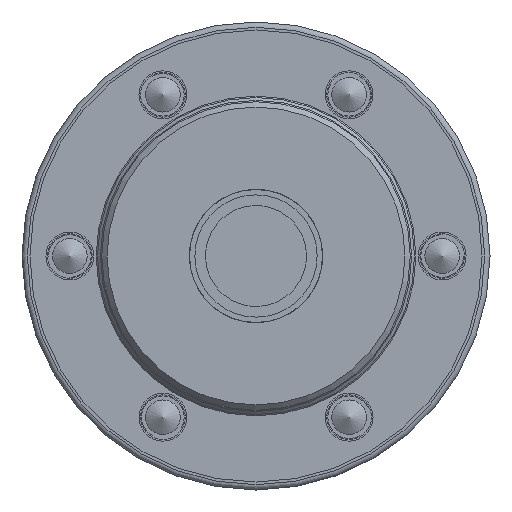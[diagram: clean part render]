
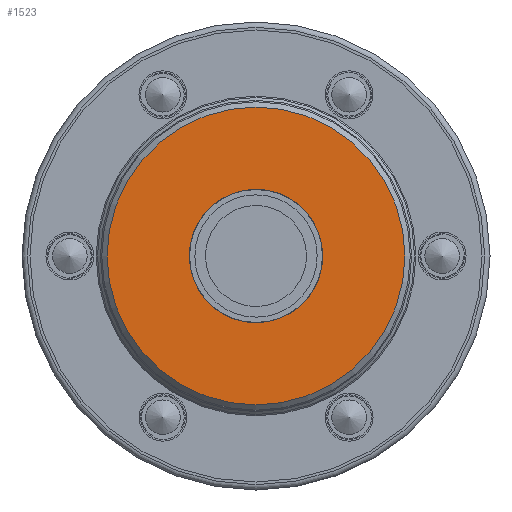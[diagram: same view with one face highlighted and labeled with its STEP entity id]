
A CAD part, front view. The second image highlights one B-rep face of the part: STEP entity #1523.
In plain terms, the highlighted planar face has unit normal (0, -1, 0).
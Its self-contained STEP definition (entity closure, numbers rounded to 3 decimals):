
#107 = AXIS2_PLACEMENT_3D ( 'NONE', #1254, #4273, #2118 ) ;
#1145 = ORIENTED_EDGE ( 'NONE', *, *, #4735, .T. ) ;
#1254 = CARTESIAN_POINT ( 'NONE',  ( 29., -36., 0. ) ) ;
#1281 = CIRCLE ( 'NONE', #4834, 28. ) ;
#1523 = ADVANCED_FACE ( 'NONE', ( #5063 ), #3424, .T. ) ;
#2118 = DIRECTION ( 'NONE',  ( 0., 0., -1. ) ) ;
#2526 = DIRECTION ( 'NONE',  ( 0., -1., 0. ) ) ;
#2633 = CARTESIAN_POINT ( 'NONE',  ( 0., -36., 0. ) ) ;
#2954 = DIRECTION ( 'NONE',  ( 0., 0., -1. ) ) ;
#3424 = PLANE ( 'NONE',  #107 ) ;
#3736 = VERTEX_POINT ( 'NONE', #4589 ) ;
#3964 = EDGE_LOOP ( 'NONE', ( #1145 ) ) ;
#4273 = DIRECTION ( 'NONE',  ( 0., -1., 0. ) ) ;
#4589 = CARTESIAN_POINT ( 'NONE',  ( 0., -36., -28. ) ) ;
#4735 = EDGE_CURVE ( 'NONE', #3736, #3736, #1281, .T. ) ;
#4834 = AXIS2_PLACEMENT_3D ( 'NONE', #2633, #2526, #2954 ) ;
#5063 = FACE_OUTER_BOUND ( 'NONE', #3964, .T. ) ;
